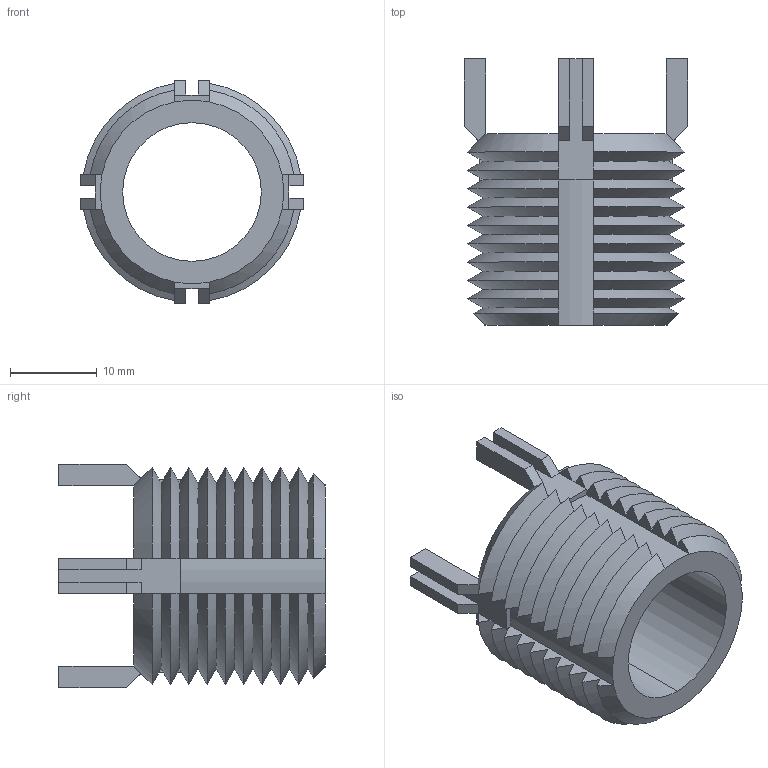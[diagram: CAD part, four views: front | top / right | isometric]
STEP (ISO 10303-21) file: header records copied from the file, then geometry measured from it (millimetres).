
FILE_DESCRIPTION (( 'STEP AP203' ), '1' );
FILE_NAME ('TR1535.66249.step', '2023-05-02T14:00:19', ( '' ), ( '' ), 'SwSTEP 2.0', 'SolidWorks 2019', '' );
FILE_SCHEMA (( 'CONFIG_CONTROL_DESIGN' ));
Length unit declared in the file: millimetre
Products named in the file (1): TR1535.66249
Bounding box: 25.78 x 30.75 x 25.78 mm (x, y, z)
Volume: 5039.4 mm3; surface area: 4993.2 mm2
Topology: 1 solids, 1 shells, 176 faces, 466 edges, 292 vertices
Faces by surface type: plane 90, cone 80, cylinder 6
Entity records: 5663 total; most frequent: CARTESIAN_POINT 1559, ORIENTED_EDGE 932, DIRECTION 716, EDGE_CURVE 466, VERTEX_POINT 292, AXIS2_PLACEMENT_3D 273, B_SPLINE_CURVE_WITH_KNOTS 200, EDGE_LOOP 178
